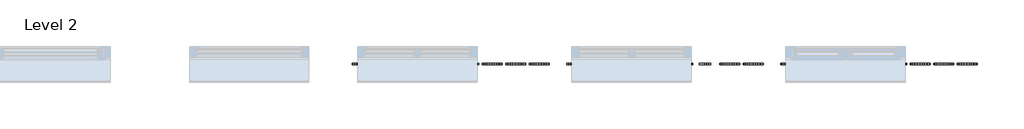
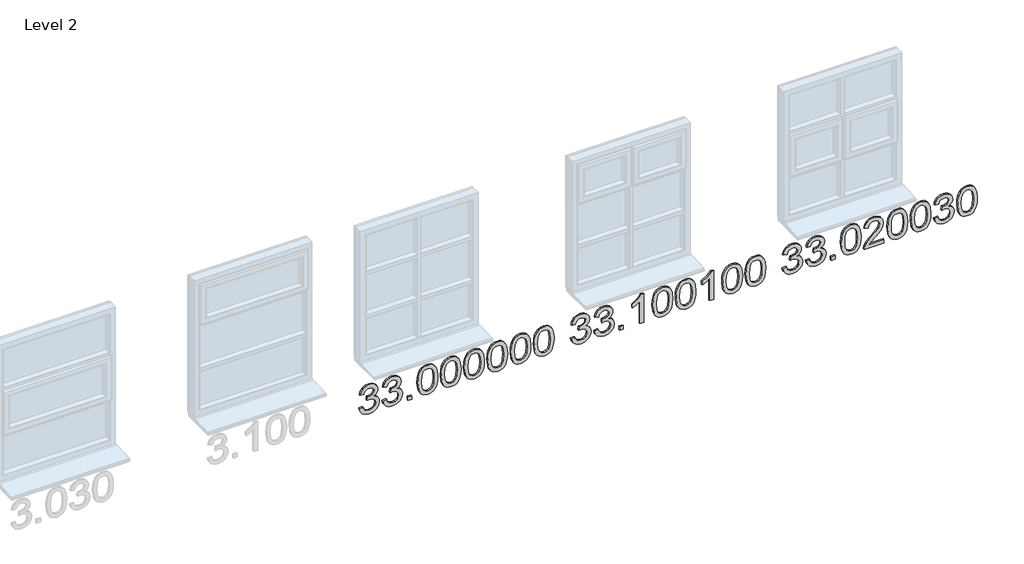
# One storey, part 2 of 2: 3 proxies.
"""IFC4 building model written with IfcOpenShell, lengths in millimetres."""

from ifc_helpers import new_model, si_unit, frame, origin, place, context, project, spatial, polyline, outline, extrude, element, save

model = new_model("IFC4")

# Units and contexts
model_context = context("Model", 3, world=origin())
ifc_project = project(units=[si_unit("LENGTHUNIT", "METRE", prefix="MILLI")], contexts=[model_context])

# Site, building, storey
site = spatial("IfcSite", under=ifc_project)
building = spatial("IfcBuilding", under=site)
storey = spatial("IfcBuildingStorey", under=building, Name="Level 2", Elevation=3000.0)

# Proxies
placement = place(None, origin())
element("IfcBuildingElementProxy", 1, Name="200mm Arial", ObjectType="200mm Arial", at=placement, inside=storey, context=model_context, shape_type="SweptSolid", body=[
    extrude(outline(polyline([(3352.6881933, -156801.9548648), (3329.9898741, -156795.7376591), (3311.9268682, -156781.9911352), (3300.1178561, -156762.2236093), (3296.1815188, -156737.9433976), (3300.7923065, -156711.1002747), (3314.6246695, -156689.3339233), (3335.0789084, -156674.9129491), (3359.5553238, -156670.1059577), (3377.5324907, -156672.5094534), (3392.223245, -156679.7199405), (3403.0389757, -156691.369537), (3409.3910714, -156707.090361), (3416.6383467, -156695.1219334), (3426.0193376, -156686.4889692), (3437.031272, -156681.2650449), (3449.1713779, -156679.5237368), (3462.2005318, -156681.3570154), (3474.5061846, -156686.8568512), (3485.1870252, -156695.8209092), (3493.3417427, -156708.0468542), (3498.5104848, -156722.5475361), (3500.2333988, -156738.3358051), (3496.7385198, -156760.261572), (3486.253883, -156778.2632643), (3469.4171503, -156791.421177), (3446.865984, -156798.8156051), (3443.7267243, -156773.7015276), (3457.4609855, -156769.2501554), (3467.271172, -156761.3897435), (3473.1572839, -156750.6230637), (3475.1193212, -156737.4528883), (3473.175678, -156724.3072383), (3467.3447484, -156713.8103388), (3458.5462374, -156706.9309454), (3447.6998499, -156704.6378143), (3434.6768272, -156707.8015995), (3425.5288283, -156717.292955), (3420.120963, -156730.7451733), (3418.3183412, -156745.7915469), (3418.6126468, -156749.8137233), (3393.4985693, -156752.6096265), (3396.2454215, -156735.0003417), (3393.6763789, -156719.2059413), (3385.9692511, -156706.4526989), (3374.3380487, -156698.0282012), (3359.9967822, -156695.2200353), (3344.889095, -156698.0527266), (3332.4301581, -156706.5508007), (3324.0792368, -156719.8436035), (3321.2955963, -156737.0604808), (3323.3189473, -156751.7328411), (3329.3890002, -156762.9838988), (3340.0453154, -156771.2183241), (3355.8274529, -156776.8407873), (3352.6881933, -156801.9548648)])), frame((0.0, 24202.6264647, 0.0), z_axis=(0.0, 1.0, 0.0), x_axis=(0.0, 0.0, 1.0)), (0.0, 0.0, 1.0), 10.0),
    extrude(outline(polyline([(3352.6881933, -156648.1311399), (3329.9898741, -156641.9139342), (3311.9268682, -156628.1674103), (3300.1178561, -156608.3998844), (3296.1815188, -156584.1196727), (3300.7923065, -156557.2765498), (3314.6246695, -156535.5101984), (3335.0789084, -156521.0892242), (3359.5553238, -156516.2822328), (3377.5324907, -156518.6857285), (3392.223245, -156525.8962156), (3403.0389757, -156537.5458121), (3409.3910714, -156553.2666361), (3416.6383467, -156541.2982085), (3426.0193376, -156532.6652443), (3437.031272, -156527.44132), (3449.1713779, -156525.7000119), (3462.2005318, -156527.5332905), (3474.5061846, -156533.0331263), (3485.1870252, -156541.9971843), (3493.3417427, -156554.2231292), (3498.5104848, -156568.7238112), (3500.2333988, -156584.5120802), (3496.7385198, -156606.4378471), (3486.253883, -156624.4395394), (3469.4171503, -156637.5974521), (3446.865984, -156644.9918802), (3443.7267243, -156619.8778027), (3457.4609855, -156615.4264305), (3467.271172, -156607.5660185), (3473.1572839, -156596.7993388), (3475.1193212, -156583.6291634), (3473.175678, -156570.4835134), (3467.3447484, -156559.9866138), (3458.5462374, -156553.1072205), (3447.6998499, -156550.8140894), (3434.6768272, -156553.9778746), (3425.5288283, -156563.4692301), (3420.120963, -156576.9214483), (3418.3183412, -156591.967822), (3418.6126468, -156595.9899984), (3393.4985693, -156598.7859016), (3396.2454215, -156581.1766168), (3393.6763789, -156565.3822164), (3385.9692511, -156552.6289739), (3374.3380487, -156544.2044762), (3359.9967822, -156541.3963103), (3344.889095, -156544.2290017), (3332.4301581, -156552.7270758), (3324.0792368, -156566.0198786), (3321.2955963, -156583.2367559), (3323.3189473, -156597.9091162), (3329.3890002, -156609.1601739), (3340.0453154, -156617.3945992), (3355.8274529, -156623.0170623), (3352.6881933, -156648.1311399)])), frame((0.0, 24202.6264647, 0.0), z_axis=(0.0, 1.0, 0.0), x_axis=(0.0, 0.0, 1.0)), (0.0, 0.0, 1.0), 10.0),
    extrude(outline(polyline([(-156456.6362987, 24202.6264647), (-156481.7503762, 24202.6264647), (-156481.7503762, 24212.6264647), (-156456.6362987, 24212.6264647), (-156456.6362987, 24202.6264647)])), frame((0.0, 0.0, 3299.3207785), z_axis=(0.0, 0.0, 1.0), x_axis=(1.0, 0.0, 0.0)), (0.0, 0.0, 1.0), 25.1140775),
    extrude(outline(polyline([(3398.1584079, -156415.8259227), (3349.2914162, -156410.8227275), (3330.4405296, -156404.5687336), (3315.3113825, -156395.8131421), (3300.9639847, -156375.9965653), (3296.1815188, -156349.9014691), (3298.9345024, -156329.6005144), (3307.1934532, -156313.1377951), (3321.0503417, -156300.4029467), (3340.5971383, -156291.2856046), (3366.1833311, -156285.8041628), (3398.1584079, -156283.9770156), (3445.3699306, -156288.5387523), (3475.0947958, -156300.3109762), (3485.8553441, -156308.9807285), (3493.7586757, -156320.5690114), (3498.614718, -156334.4258999), (3500.2333988, -156349.9014691), (3497.4988093, -156370.0920593), (3489.2950408, -156386.5179904), (3475.4933346, -156399.2712329), (3455.964932, -156408.4437573), (3430.3174256, -156413.9803813), (3398.1584079, -156415.8259227)]), holes=[polyline([(3398.2074588, -156390.7118451), (3437.2029503, -156387.6706873), (3461.6793657, -156378.5472138), (3471.7593324, -156365.9165986), (3475.1193212, -156350.1957747), (3471.3056112, -156333.592034), (3459.8644812, -156320.4709095), (3436.8228055, -156311.9360472), (3398.2074588, -156309.0910931), (3358.7643775, -156312.0341491), (3335.8882488, -156320.863317), (3324.9437594, -156334.0089669), (3321.2955963, -156349.9014691), (3324.9314967, -156365.7939713), (3335.8391979, -156378.9396213), (3358.7030639, -156387.7687892), (3398.2074588, -156390.7118451)])]), frame((0.0, 24202.6264647, 0.0), z_axis=(0.0, 1.0, 0.0), x_axis=(0.0, 0.0, 1.0)), (0.0, 0.0, 1.0), 10.0),
    extrude(outline(polyline([(3398.1584079, -156262.0021977), (3349.2914162, -156256.9990026), (3330.4405296, -156250.7450087), (3315.3113825, -156241.9894172), (3300.9639847, -156222.1728404), (3296.1815188, -156196.0777442), (3298.9345024, -156175.7767894), (3307.1934532, -156159.3140702), (3321.0503417, -156146.5792218), (3340.5971383, -156137.4618796), (3366.1833311, -156131.9804379), (3398.1584079, -156130.1532907), (3445.3699306, -156134.7150274), (3475.0947958, -156146.4872513), (3485.8553441, -156155.1570036), (3493.7586757, -156166.7452865), (3498.614718, -156180.6021749), (3500.2333988, -156196.0777442), (3497.4988093, -156216.2683344), (3489.2950408, -156232.6942655), (3475.4933346, -156245.447508), (3455.964932, -156254.6200324), (3430.3174256, -156260.1566564), (3398.1584079, -156262.0021977)]), holes=[polyline([(3398.2074588, -156236.8881202), (3437.2029503, -156233.8469624), (3461.6793657, -156224.7234889), (3471.7593324, -156212.0928737), (3475.1193212, -156196.3720498), (3471.3056112, -156179.7683091), (3459.8644812, -156166.6471846), (3436.8228055, -156158.1123223), (3398.2074588, -156155.2673682), (3358.7643775, -156158.2104242), (3335.8882488, -156167.0395921), (3324.9437594, -156180.185242), (3321.2955963, -156196.0777442), (3324.9314967, -156211.9702464), (3335.8391979, -156225.1158964), (3358.7030639, -156233.9450642), (3398.2074588, -156236.8881202)])]), frame((0.0, 24202.6264647, 0.0), z_axis=(0.0, 1.0, 0.0), x_axis=(0.0, 0.0, 1.0)), (0.0, 0.0, 1.0), 10.0),
    extrude(outline(polyline([(3398.1584079, -156108.1784728), (3349.2914162, -156103.1752777), (3330.4405296, -156096.9212838), (3315.3113825, -156088.1656923), (3300.9639847, -156068.3491155), (3296.1815188, -156042.2540193), (3298.9345024, -156021.9530645), (3307.1934532, -156005.4903452), (3321.0503417, -155992.7554968), (3340.5971383, -155983.6381547), (3366.1833311, -155978.156713), (3398.1584079, -155976.3295658), (3445.3699306, -155980.8913025), (3475.0947958, -155992.6635263), (3485.8553441, -156001.3332787), (3493.7586757, -156012.9215615), (3498.614718, -156026.77845), (3500.2333988, -156042.2540193), (3497.4988093, -156062.4446095), (3489.2950408, -156078.8705405), (3475.4933346, -156091.623783), (3455.964932, -156100.7963075), (3430.3174256, -156106.3329315), (3398.1584079, -156108.1784728)]), holes=[polyline([(3398.2074588, -156083.0643953), (3437.2029503, -156080.0232375), (3461.6793657, -156070.899764), (3471.7593324, -156058.2691488), (3475.1193212, -156042.5483249), (3471.3056112, -156025.9445842), (3459.8644812, -156012.8234597), (3436.8228055, -156004.2885974), (3398.2074588, -156001.4436433), (3358.7643775, -156004.3866993), (3335.8882488, -156013.2158671), (3324.9437594, -156026.3615171), (3321.2955963, -156042.2540193), (3324.9314967, -156058.1465215), (3335.8391979, -156071.2921714), (3358.7030639, -156080.1213393), (3398.2074588, -156083.0643953)])]), frame((0.0, 24202.6264647, 0.0), z_axis=(0.0, 1.0, 0.0), x_axis=(0.0, 0.0, 1.0)), (0.0, 0.0, 1.0), 10.0),
    extrude(outline(polyline([(3398.1584079, -155954.3547479), (3349.2914162, -155949.3515528), (3330.4405296, -155943.0975589), (3315.3113825, -155934.3419674), (3300.9639847, -155914.5253906), (3296.1815188, -155888.4302944), (3298.9345024, -155868.1293396), (3307.1934532, -155851.6666203), (3321.0503417, -155838.9317719), (3340.5971383, -155829.8144298), (3366.1833311, -155824.3329881), (3398.1584079, -155822.5058408), (3445.3699306, -155827.0675776), (3475.0947958, -155838.8398014), (3485.8553441, -155847.5095538), (3493.7586757, -155859.0978366), (3498.614718, -155872.9547251), (3500.2333988, -155888.4302944), (3497.4988093, -155908.6208845), (3489.2950408, -155925.0468156), (3475.4933346, -155937.8000581), (3455.964932, -155946.9725825), (3430.3174256, -155952.5092066), (3398.1584079, -155954.3547479)]), holes=[polyline([(3398.2074588, -155929.2406704), (3437.2029503, -155926.1995125), (3461.6793657, -155917.0760391), (3471.7593324, -155904.4454239), (3475.1193212, -155888.7246), (3471.3056112, -155872.1208593), (3459.8644812, -155858.9997348), (3436.8228055, -155850.4648725), (3398.2074588, -155847.6199184), (3358.7643775, -155850.5629743), (3335.8882488, -155859.3921422), (3324.9437594, -155872.5377922), (3321.2955963, -155888.4302944), (3324.9314967, -155904.3227966), (3335.8391979, -155917.4684465), (3358.7030639, -155926.2976144), (3398.2074588, -155929.2406704)])]), frame((0.0, 24202.6264647, 0.0), z_axis=(0.0, 1.0, 0.0), x_axis=(0.0, 0.0, 1.0)), (0.0, 0.0, 1.0), 10.0),
    extrude(outline(polyline([(3398.1584079, -155800.531023), (3349.2914162, -155795.5278279), (3330.4405296, -155789.2738339), (3315.3113825, -155780.5182425), (3300.9639847, -155760.7016656), (3296.1815188, -155734.6065695), (3298.9345024, -155714.3056147), (3307.1934532, -155697.8428954), (3321.0503417, -155685.108047), (3340.5971383, -155675.9907049), (3366.1833311, -155670.5092632), (3398.1584079, -155668.6821159), (3445.3699306, -155673.2438527), (3475.0947958, -155685.0160765), (3485.8553441, -155693.6858289), (3493.7586757, -155705.2741117), (3498.614718, -155719.1310002), (3500.2333988, -155734.6065695), (3497.4988093, -155754.7971596), (3489.2950408, -155771.2230907), (3475.4933346, -155783.9763332), (3455.964932, -155793.1488576), (3430.3174256, -155798.6854817), (3398.1584079, -155800.531023)]), holes=[polyline([(3398.2074588, -155775.4169455), (3437.2029503, -155772.3757876), (3461.6793657, -155763.2523141), (3471.7593324, -155750.621699), (3475.1193212, -155734.9008751), (3471.3056112, -155718.2971343), (3459.8644812, -155705.1760098), (3436.8228055, -155696.6411476), (3398.2074588, -155693.7961935), (3358.7643775, -155696.7392494), (3335.8882488, -155705.5684173), (3324.9437594, -155718.7140673), (3321.2955963, -155734.6065695), (3324.9314967, -155750.4990717), (3335.8391979, -155763.6447216), (3358.7030639, -155772.4738895), (3398.2074588, -155775.4169455)])]), frame((0.0, 24202.6264647, 0.0), z_axis=(0.0, 1.0, 0.0), x_axis=(0.0, 0.0, 1.0)), (0.0, 0.0, 1.0), 10.0),
    extrude(outline(polyline([(3398.1584079, -155646.7072981), (3349.2914162, -155641.7041029), (3330.4405296, -155635.450109), (3315.3113825, -155626.6945175), (3300.9639847, -155606.8779407), (3296.1815188, -155580.7828445), (3298.9345024, -155560.4818898), (3307.1934532, -155544.0191705), (3321.0503417, -155531.2843221), (3340.5971383, -155522.16698), (3366.1833311, -155516.6855382), (3398.1584079, -155514.858391), (3445.3699306, -155519.4201277), (3475.0947958, -155531.1923516), (3485.8553441, -155539.8621039), (3493.7586757, -155551.4503868), (3498.614718, -155565.3072753), (3500.2333988, -155580.7828445), (3497.4988093, -155600.9734347), (3489.2950408, -155617.3993658), (3475.4933346, -155630.1526083), (3455.964932, -155639.3251327), (3430.3174256, -155644.8617567), (3398.1584079, -155646.7072981)]), holes=[polyline([(3398.2074588, -155621.5932205), (3437.2029503, -155618.5520627), (3461.6793657, -155609.4285892), (3471.7593324, -155596.7979741), (3475.1193212, -155581.0771501), (3471.3056112, -155564.4734094), (3459.8644812, -155551.3522849), (3436.8228055, -155542.8174226), (3398.2074588, -155539.9724685), (3358.7643775, -155542.9155245), (3335.8882488, -155551.7446924), (3324.9437594, -155564.8903424), (3321.2955963, -155580.7828445), (3324.9314967, -155596.6753467), (3335.8391979, -155609.8209967), (3358.7030639, -155618.6501646), (3398.2074588, -155621.5932205)])]), frame((0.0, 24202.6264647, 0.0), z_axis=(0.0, 1.0, 0.0), x_axis=(0.0, 0.0, 1.0)), (0.0, 0.0, 1.0), 10.0),
])
element("IfcBuildingElementProxy", 2, Name="200mm Arial", ObjectType="200mm Arial", at=placement, inside=storey, context=model_context, shape_type="SweptSolid", body=[
    extrude(outline(polyline([(3352.6881933, -155401.9548648), (3329.9898741, -155395.7376591), (3311.9268682, -155381.9911352), (3300.1178561, -155362.2236093), (3296.1815188, -155337.9433976), (3300.7923065, -155311.1002747), (3314.6246695, -155289.3339233), (3335.0789084, -155274.9129491), (3359.5553238, -155270.1059577), (3377.5324907, -155272.5094534), (3392.223245, -155279.7199405), (3403.0389757, -155291.369537), (3409.3910714, -155307.090361), (3416.6383467, -155295.1219334), (3426.0193376, -155286.4889692), (3437.031272, -155281.2650449), (3449.1713779, -155279.5237368), (3462.2005318, -155281.3570154), (3474.5061846, -155286.8568512), (3485.1870252, -155295.8209092), (3493.3417427, -155308.0468542), (3498.5104848, -155322.5475361), (3500.2333988, -155338.3358051), (3496.7385198, -155360.261572), (3486.253883, -155378.2632643), (3469.4171503, -155391.421177), (3446.865984, -155398.8156051), (3443.7267243, -155373.7015276), (3457.4609855, -155369.2501554), (3467.271172, -155361.3897435), (3473.1572839, -155350.6230637), (3475.1193212, -155337.4528883), (3473.175678, -155324.3072383), (3467.3447484, -155313.8103388), (3458.5462374, -155306.9309454), (3447.6998499, -155304.6378143), (3434.6768272, -155307.8015995), (3425.5288283, -155317.292955), (3420.120963, -155330.7451733), (3418.3183412, -155345.7915469), (3418.6126468, -155349.8137233), (3393.4985693, -155352.6096265), (3396.2454215, -155335.0003417), (3393.6763789, -155319.2059413), (3385.9692511, -155306.4526989), (3374.3380487, -155298.0282012), (3359.9967822, -155295.2200353), (3344.889095, -155298.0527266), (3332.4301581, -155306.5508007), (3324.0792368, -155319.8436035), (3321.2955963, -155337.0604808), (3323.3189473, -155351.7328411), (3329.3890002, -155362.9838988), (3340.0453154, -155371.2183241), (3355.8274529, -155376.8407873), (3352.6881933, -155401.9548648)])), frame((0.0, 24202.6264647, 0.0), z_axis=(0.0, 1.0, 0.0), x_axis=(0.0, 0.0, 1.0)), (0.0, 0.0, 1.0), 10.0),
    extrude(outline(polyline([(3352.6881933, -155248.1311399), (3329.9898741, -155241.9139342), (3311.9268682, -155228.1674103), (3300.1178561, -155208.3998844), (3296.1815188, -155184.1196727), (3300.7923065, -155157.2765498), (3314.6246695, -155135.5101984), (3335.0789084, -155121.0892242), (3359.5553238, -155116.2822328), (3377.5324907, -155118.6857285), (3392.223245, -155125.8962156), (3403.0389757, -155137.5458121), (3409.3910714, -155153.2666361), (3416.6383467, -155141.2982085), (3426.0193376, -155132.6652443), (3437.031272, -155127.44132), (3449.1713779, -155125.7000119), (3462.2005318, -155127.5332905), (3474.5061846, -155133.0331263), (3485.1870252, -155141.9971843), (3493.3417427, -155154.2231292), (3498.5104848, -155168.7238112), (3500.2333988, -155184.5120802), (3496.7385198, -155206.4378471), (3486.253883, -155224.4395394), (3469.4171503, -155237.5974521), (3446.865984, -155244.9918802), (3443.7267243, -155219.8778027), (3457.4609855, -155215.4264305), (3467.271172, -155207.5660185), (3473.1572839, -155196.7993388), (3475.1193212, -155183.6291634), (3473.175678, -155170.4835134), (3467.3447484, -155159.9866138), (3458.5462374, -155153.1072205), (3447.6998499, -155150.8140894), (3434.6768272, -155153.9778746), (3425.5288283, -155163.4692301), (3420.120963, -155176.9214483), (3418.3183412, -155191.967822), (3418.6126468, -155195.9899984), (3393.4985693, -155198.7859016), (3396.2454215, -155181.1766168), (3393.6763789, -155165.3822164), (3385.9692511, -155152.6289739), (3374.3380487, -155144.2044762), (3359.9967822, -155141.3963103), (3344.889095, -155144.2290017), (3332.4301581, -155152.7270758), (3324.0792368, -155166.0198786), (3321.2955963, -155183.2367559), (3323.3189473, -155197.9091162), (3329.3890002, -155209.1601739), (3340.0453154, -155217.3945992), (3355.8274529, -155223.0170623), (3352.6881933, -155248.1311399)])), frame((0.0, 24202.6264647, 0.0), z_axis=(0.0, 1.0, 0.0), x_axis=(0.0, 0.0, 1.0)), (0.0, 0.0, 1.0), 10.0),
    extrude(outline(polyline([(-155056.6362987, 24202.6264647), (-155081.7503762, 24202.6264647), (-155081.7503762, 24212.6264647), (-155056.6362987, 24212.6264647), (-155056.6362987, 24202.6264647)])), frame((0.0, 0.0, 3299.3207785), z_axis=(0.0, 0.0, 1.0), x_axis=(1.0, 0.0, 0.0)), (0.0, 0.0, 1.0), 25.1140775),
    extrude(outline(polyline([(3299.3207785, -154921.6481319), (3500.2333988, -154921.6481319), (3500.2333988, -154937.8349397), (3487.0754861, -154946.7070271), (3473.5006405, -154960.1776395), (3450.0052437, -154996.9903645), (3426.2645923, -154996.9903645), (3438.9442584, -154970.5519118), (3455.8913556, -154946.7622094), (3299.3207785, -154946.7622094), (3299.3207785, -154921.6481319)])), frame((0.0, 24202.6264647, 0.0), z_axis=(0.0, 1.0, 0.0), x_axis=(0.0, 0.0, 1.0)), (0.0, 0.0, 1.0), 10.0),
    extrude(outline(polyline([(3398.1584079, -154862.0021977), (3349.2914162, -154856.9990026), (3330.4405296, -154850.7450087), (3315.3113825, -154841.9894172), (3300.9639847, -154822.1728404), (3296.1815188, -154796.0777442), (3298.9345024, -154775.7767894), (3307.1934532, -154759.3140702), (3321.0503417, -154746.5792218), (3340.5971383, -154737.4618796), (3366.1833311, -154731.9804379), (3398.1584079, -154730.1532907), (3445.3699306, -154734.7150274), (3475.0947958, -154746.4872513), (3485.8553441, -154755.1570036), (3493.7586757, -154766.7452865), (3498.614718, -154780.6021749), (3500.2333988, -154796.0777442), (3497.4988093, -154816.2683344), (3489.2950408, -154832.6942655), (3475.4933346, -154845.447508), (3455.964932, -154854.6200324), (3430.3174256, -154860.1566564), (3398.1584079, -154862.0021977)]), holes=[polyline([(3398.2074588, -154836.8881202), (3437.2029503, -154833.8469624), (3461.6793657, -154824.7234889), (3471.7593324, -154812.0928737), (3475.1193212, -154796.3720498), (3471.3056112, -154779.7683091), (3459.8644812, -154766.6471846), (3436.8228055, -154758.1123223), (3398.2074588, -154755.2673682), (3358.7643775, -154758.2104242), (3335.8882488, -154767.0395921), (3324.9437594, -154780.185242), (3321.2955963, -154796.0777442), (3324.9314967, -154811.9702464), (3335.8391979, -154825.1158964), (3358.7030639, -154833.9450642), (3398.2074588, -154836.8881202)])]), frame((0.0, 24202.6264647, 0.0), z_axis=(0.0, 1.0, 0.0), x_axis=(0.0, 0.0, 1.0)), (0.0, 0.0, 1.0), 10.0),
    extrude(outline(polyline([(3398.1584079, -154708.1784728), (3349.2914162, -154703.1752777), (3330.4405296, -154696.9212838), (3315.3113825, -154688.1656923), (3300.9639847, -154668.3491155), (3296.1815188, -154642.2540193), (3298.9345024, -154621.9530645), (3307.1934532, -154605.4903452), (3321.0503417, -154592.7554968), (3340.5971383, -154583.6381547), (3366.1833311, -154578.156713), (3398.1584079, -154576.3295658), (3445.3699306, -154580.8913025), (3475.0947958, -154592.6635263), (3485.8553441, -154601.3332787), (3493.7586757, -154612.9215615), (3498.614718, -154626.77845), (3500.2333988, -154642.2540193), (3497.4988093, -154662.4446095), (3489.2950408, -154678.8705405), (3475.4933346, -154691.623783), (3455.964932, -154700.7963075), (3430.3174256, -154706.3329315), (3398.1584079, -154708.1784728)]), holes=[polyline([(3398.2074588, -154683.0643953), (3437.2029503, -154680.0232375), (3461.6793657, -154670.899764), (3471.7593324, -154658.2691488), (3475.1193212, -154642.5483249), (3471.3056112, -154625.9445842), (3459.8644812, -154612.8234597), (3436.8228055, -154604.2885974), (3398.2074588, -154601.4436433), (3358.7643775, -154604.3866993), (3335.8882488, -154613.2158671), (3324.9437594, -154626.3615171), (3321.2955963, -154642.2540193), (3324.9314967, -154658.1465215), (3335.8391979, -154671.2921714), (3358.7030639, -154680.1213393), (3398.2074588, -154683.0643953)])]), frame((0.0, 24202.6264647, 0.0), z_axis=(0.0, 1.0, 0.0), x_axis=(0.0, 0.0, 1.0)), (0.0, 0.0, 1.0), 10.0),
    extrude(outline(polyline([(3299.3207785, -154460.1769571), (3500.2333988, -154460.1769571), (3500.2333988, -154476.3637649), (3487.0754861, -154485.2358524), (3473.5006405, -154498.7064648), (3450.0052437, -154535.5191898), (3426.2645923, -154535.5191898), (3438.9442584, -154509.080737), (3455.8913556, -154485.2910347), (3299.3207785, -154485.2910347), (3299.3207785, -154460.1769571)])), frame((0.0, 24202.6264647, 0.0), z_axis=(0.0, 1.0, 0.0), x_axis=(0.0, 0.0, 1.0)), (0.0, 0.0, 1.0), 10.0),
    extrude(outline(polyline([(3398.1584079, -154400.531023), (3349.2914162, -154395.5278279), (3330.4405296, -154389.2738339), (3315.3113825, -154380.5182425), (3300.9639847, -154360.7016656), (3296.1815188, -154334.6065695), (3298.9345024, -154314.3056147), (3307.1934532, -154297.8428954), (3321.0503417, -154285.108047), (3340.5971383, -154275.9907049), (3366.1833311, -154270.5092632), (3398.1584079, -154268.6821159), (3445.3699306, -154273.2438527), (3475.0947958, -154285.0160765), (3485.8553441, -154293.6858289), (3493.7586757, -154305.2741117), (3498.614718, -154319.1310002), (3500.2333988, -154334.6065695), (3497.4988093, -154354.7971596), (3489.2950408, -154371.2230907), (3475.4933346, -154383.9763332), (3455.964932, -154393.1488576), (3430.3174256, -154398.6854817), (3398.1584079, -154400.531023)]), holes=[polyline([(3398.2074588, -154375.4169455), (3437.2029503, -154372.3757876), (3461.6793657, -154363.2523141), (3471.7593324, -154350.621699), (3475.1193212, -154334.9008751), (3471.3056112, -154318.2971343), (3459.8644812, -154305.1760098), (3436.8228055, -154296.6411476), (3398.2074588, -154293.7961935), (3358.7643775, -154296.7392494), (3335.8882488, -154305.5684173), (3324.9437594, -154318.7140673), (3321.2955963, -154334.6065695), (3324.9314967, -154350.4990717), (3335.8391979, -154363.6447216), (3358.7030639, -154372.4738895), (3398.2074588, -154375.4169455)])]), frame((0.0, 24202.6264647, 0.0), z_axis=(0.0, 1.0, 0.0), x_axis=(0.0, 0.0, 1.0)), (0.0, 0.0, 1.0), 10.0),
    extrude(outline(polyline([(3398.1584079, -154246.7072981), (3349.2914162, -154241.7041029), (3330.4405296, -154235.450109), (3315.3113825, -154226.6945175), (3300.9639847, -154206.8779407), (3296.1815188, -154180.7828445), (3298.9345024, -154160.4818898), (3307.1934532, -154144.0191705), (3321.0503417, -154131.2843221), (3340.5971383, -154122.16698), (3366.1833311, -154116.6855382), (3398.1584079, -154114.858391), (3445.3699306, -154119.4201277), (3475.0947958, -154131.1923516), (3485.8553441, -154139.8621039), (3493.7586757, -154151.4503868), (3498.614718, -154165.3072753), (3500.2333988, -154180.7828445), (3497.4988093, -154200.9734347), (3489.2950408, -154217.3993658), (3475.4933346, -154230.1526083), (3455.964932, -154239.3251327), (3430.3174256, -154244.8617567), (3398.1584079, -154246.7072981)]), holes=[polyline([(3398.2074588, -154221.5932205), (3437.2029503, -154218.5520627), (3461.6793657, -154209.4285892), (3471.7593324, -154196.7979741), (3475.1193212, -154181.0771501), (3471.3056112, -154164.4734094), (3459.8644812, -154151.3522849), (3436.8228055, -154142.8174226), (3398.2074588, -154139.9724685), (3358.7643775, -154142.9155245), (3335.8882488, -154151.7446924), (3324.9437594, -154164.8903424), (3321.2955963, -154180.7828445), (3324.9314967, -154196.6753467), (3335.8391979, -154209.8209967), (3358.7030639, -154218.6501646), (3398.2074588, -154221.5932205)])]), frame((0.0, 24202.6264647, 0.0), z_axis=(0.0, 1.0, 0.0), x_axis=(0.0, 0.0, 1.0)), (0.0, 0.0, 1.0), 10.0),
])
element("IfcBuildingElementProxy", 3, Name="200mm Arial", ObjectType="200mm Arial", at=placement, inside=storey, context=model_context, shape_type="SweptSolid", body=[
    extrude(outline(polyline([(3352.6881933, -154001.9548648), (3329.9898741, -153995.7376591), (3311.9268682, -153981.9911352), (3300.1178561, -153962.2236093), (3296.1815188, -153937.9433976), (3300.7923065, -153911.1002747), (3314.6246695, -153889.3339233), (3335.0789084, -153874.9129491), (3359.5553238, -153870.1059577), (3377.5324907, -153872.5094534), (3392.223245, -153879.7199405), (3403.0389757, -153891.369537), (3409.3910714, -153907.090361), (3416.6383467, -153895.1219334), (3426.0193376, -153886.4889692), (3437.031272, -153881.2650449), (3449.1713779, -153879.5237368), (3462.2005318, -153881.3570154), (3474.5061846, -153886.8568512), (3485.1870252, -153895.8209092), (3493.3417427, -153908.0468542), (3498.5104848, -153922.5475361), (3500.2333988, -153938.3358051), (3496.7385198, -153960.261572), (3486.253883, -153978.2632643), (3469.4171503, -153991.421177), (3446.865984, -153998.8156051), (3443.7267243, -153973.7015276), (3457.4609855, -153969.2501554), (3467.271172, -153961.3897435), (3473.1572839, -153950.6230637), (3475.1193212, -153937.4528883), (3473.175678, -153924.3072383), (3467.3447484, -153913.8103388), (3458.5462374, -153906.9309454), (3447.6998499, -153904.6378143), (3434.6768272, -153907.8015995), (3425.5288283, -153917.292955), (3420.120963, -153930.7451733), (3418.3183412, -153945.7915469), (3418.6126468, -153949.8137233), (3393.4985693, -153952.6096265), (3396.2454215, -153935.0003417), (3393.6763789, -153919.2059413), (3385.9692511, -153906.4526989), (3374.3380487, -153898.0282012), (3359.9967822, -153895.2200353), (3344.889095, -153898.0527266), (3332.4301581, -153906.5508007), (3324.0792368, -153919.8436035), (3321.2955963, -153937.0604808), (3323.3189473, -153951.7328411), (3329.3890002, -153962.9838988), (3340.0453154, -153971.2183241), (3355.8274529, -153976.8407873), (3352.6881933, -154001.9548648)])), frame((0.0, 24202.6264647, 0.0), z_axis=(0.0, 1.0, 0.0), x_axis=(0.0, 0.0, 1.0)), (0.0, 0.0, 1.0), 10.0),
    extrude(outline(polyline([(3352.6881933, -153848.1311399), (3329.9898741, -153841.9139342), (3311.9268682, -153828.1674103), (3300.1178561, -153808.3998844), (3296.1815188, -153784.1196727), (3300.7923065, -153757.2765498), (3314.6246695, -153735.5101984), (3335.0789084, -153721.0892242), (3359.5553238, -153716.2822328), (3377.5324907, -153718.6857285), (3392.223245, -153725.8962156), (3403.0389757, -153737.5458121), (3409.3910714, -153753.2666361), (3416.6383467, -153741.2982085), (3426.0193376, -153732.6652443), (3437.031272, -153727.44132), (3449.1713779, -153725.7000119), (3462.2005318, -153727.5332905), (3474.5061846, -153733.0331263), (3485.1870252, -153741.9971843), (3493.3417427, -153754.2231292), (3498.5104848, -153768.7238112), (3500.2333988, -153784.5120802), (3496.7385198, -153806.4378471), (3486.253883, -153824.4395394), (3469.4171503, -153837.5974521), (3446.865984, -153844.9918802), (3443.7267243, -153819.8778027), (3457.4609855, -153815.4264305), (3467.271172, -153807.5660185), (3473.1572839, -153796.7993388), (3475.1193212, -153783.6291634), (3473.175678, -153770.4835134), (3467.3447484, -153759.9866138), (3458.5462374, -153753.1072205), (3447.6998499, -153750.8140894), (3434.6768272, -153753.9778746), (3425.5288283, -153763.4692301), (3420.120963, -153776.9214483), (3418.3183412, -153791.967822), (3418.6126468, -153795.9899984), (3393.4985693, -153798.7859016), (3396.2454215, -153781.1766168), (3393.6763789, -153765.3822164), (3385.9692511, -153752.6289739), (3374.3380487, -153744.2044762), (3359.9967822, -153741.3963103), (3344.889095, -153744.2290017), (3332.4301581, -153752.7270758), (3324.0792368, -153766.0198786), (3321.2955963, -153783.2367559), (3323.3189473, -153797.9091162), (3329.3890002, -153809.1601739), (3340.0453154, -153817.3945992), (3355.8274529, -153823.0170623), (3352.6881933, -153848.1311399)])), frame((0.0, 24202.6264647, 0.0), z_axis=(0.0, 1.0, 0.0), x_axis=(0.0, 0.0, 1.0)), (0.0, 0.0, 1.0), 10.0),
    extrude(outline(polyline([(-153656.6362987, 24202.6264647), (-153681.7503762, 24202.6264647), (-153681.7503762, 24212.6264647), (-153656.6362987, 24212.6264647), (-153656.6362987, 24202.6264647)])), frame((0.0, 0.0, 3299.3207785), z_axis=(0.0, 0.0, 1.0), x_axis=(1.0, 0.0, 0.0)), (0.0, 0.0, 1.0), 25.1140775),
    extrude(outline(polyline([(3398.1584079, -153615.8259227), (3349.2914162, -153610.8227275), (3330.4405296, -153604.5687336), (3315.3113825, -153595.8131421), (3300.9639847, -153575.9965653), (3296.1815188, -153549.9014691), (3298.9345024, -153529.6005144), (3307.1934532, -153513.1377951), (3321.0503417, -153500.4029467), (3340.5971383, -153491.2856046), (3366.1833311, -153485.8041628), (3398.1584079, -153483.9770156), (3445.3699306, -153488.5387523), (3475.0947958, -153500.3109762), (3485.8553441, -153508.9807285), (3493.7586757, -153520.5690114), (3498.614718, -153534.4258999), (3500.2333988, -153549.9014691), (3497.4988093, -153570.0920593), (3489.2950408, -153586.5179904), (3475.4933346, -153599.2712329), (3455.964932, -153608.4437573), (3430.3174256, -153613.9803813), (3398.1584079, -153615.8259227)]), holes=[polyline([(3398.2074588, -153590.7118451), (3437.2029503, -153587.6706873), (3461.6793657, -153578.5472138), (3471.7593324, -153565.9165986), (3475.1193212, -153550.1957747), (3471.3056112, -153533.592034), (3459.8644812, -153520.4709095), (3436.8228055, -153511.9360472), (3398.2074588, -153509.0910931), (3358.7643775, -153512.0341491), (3335.8882488, -153520.863317), (3324.9437594, -153534.0089669), (3321.2955963, -153549.9014691), (3324.9314967, -153565.7939713), (3335.8391979, -153578.9396213), (3358.7030639, -153587.7687892), (3398.2074588, -153590.7118451)])]), frame((0.0, 24202.6264647, 0.0), z_axis=(0.0, 1.0, 0.0), x_axis=(0.0, 0.0, 1.0)), (0.0, 0.0, 1.0), 10.0),
    extrude(outline(polyline([(3324.434856, -153333.2925504), (3324.434856, -153431.933976), (3337.212624, -153420.6032106), (3361.3702083, -153391.7122112), (3395.7794376, -153355.7333521), (3420.4030058, -153340.8954449), (3444.2172337, -153336.4318101), (3466.1184751, -153340.5704825), (3484.1446929, -153352.9864998), (3496.2112223, -153372.5026397), (3500.2333988, -153397.9416797), (3496.6158925, -153423.1967786), (3485.7633736, -153442.7497067), (3468.0191987, -153455.9137507), (3443.7267243, -153462.0021977), (3440.5874646, -153436.8881202), (3455.0207016, -153434.1719248), (3465.9467968, -153426.3176442), (3472.8261901, -153414.1468815), (3475.1193212, -153398.4812399), (3472.7710078, -153383.563625), (3465.7260676, -153371.7730071), (3455.2720876, -153364.1026675), (3442.6966547, -153361.5458876), (3428.668088, -153364.2559516), (3414.2471138, -153372.3861437), (3372.4066682, -153415.7471682), (3343.2949396, -153447.1888161), (3316.6357577, -153462.4436561), (3299.3207785, -153465.1414574), (3299.3207785, -153333.2925504), (3324.434856, -153333.2925504)])), frame((0.0, 24202.6264647, 0.0), z_axis=(0.0, 1.0, 0.0), x_axis=(0.0, 0.0, 1.0)), (0.0, 0.0, 1.0), 10.0),
    extrude(outline(polyline([(3398.1584079, -153308.1784728), (3349.2914162, -153303.1752777), (3330.4405296, -153296.9212838), (3315.3113825, -153288.1656923), (3300.9639847, -153268.3491155), (3296.1815188, -153242.2540193), (3298.9345024, -153221.9530645), (3307.1934532, -153205.4903452), (3321.0503417, -153192.7554968), (3340.5971383, -153183.6381547), (3366.1833311, -153178.156713), (3398.1584079, -153176.3295658), (3445.3699306, -153180.8913025), (3475.0947958, -153192.6635263), (3485.8553441, -153201.3332787), (3493.7586757, -153212.9215615), (3498.614718, -153226.77845), (3500.2333988, -153242.2540193), (3497.4988093, -153262.4446095), (3489.2950408, -153278.8705405), (3475.4933346, -153291.623783), (3455.964932, -153300.7963075), (3430.3174256, -153306.3329315), (3398.1584079, -153308.1784728)]), holes=[polyline([(3398.2074588, -153283.0643953), (3437.2029503, -153280.0232375), (3461.6793657, -153270.899764), (3471.7593324, -153258.2691488), (3475.1193212, -153242.5483249), (3471.3056112, -153225.9445842), (3459.8644812, -153212.8234597), (3436.8228055, -153204.2885974), (3398.2074588, -153201.4436433), (3358.7643775, -153204.3866993), (3335.8882488, -153213.2158671), (3324.9437594, -153226.3615171), (3321.2955963, -153242.2540193), (3324.9314967, -153258.1465215), (3335.8391979, -153271.2921714), (3358.7030639, -153280.1213393), (3398.2074588, -153283.0643953)])]), frame((0.0, 24202.6264647, 0.0), z_axis=(0.0, 1.0, 0.0), x_axis=(0.0, 0.0, 1.0)), (0.0, 0.0, 1.0), 10.0),
    extrude(outline(polyline([(3398.1584079, -153154.3547479), (3349.2914162, -153149.3515528), (3330.4405296, -153143.0975589), (3315.3113825, -153134.3419674), (3300.9639847, -153114.5253906), (3296.1815188, -153088.4302944), (3298.9345024, -153068.1293396), (3307.1934532, -153051.6666203), (3321.0503417, -153038.9317719), (3340.5971383, -153029.8144298), (3366.1833311, -153024.3329881), (3398.1584079, -153022.5058408), (3445.3699306, -153027.0675776), (3475.0947958, -153038.8398014), (3485.8553441, -153047.5095538), (3493.7586757, -153059.0978366), (3498.614718, -153072.9547251), (3500.2333988, -153088.4302944), (3497.4988093, -153108.6208845), (3489.2950408, -153125.0468156), (3475.4933346, -153137.8000581), (3455.964932, -153146.9725825), (3430.3174256, -153152.5092066), (3398.1584079, -153154.3547479)]), holes=[polyline([(3398.2074588, -153129.2406704), (3437.2029503, -153126.1995125), (3461.6793657, -153117.0760391), (3471.7593324, -153104.4454239), (3475.1193212, -153088.7246), (3471.3056112, -153072.1208593), (3459.8644812, -153058.9997348), (3436.8228055, -153050.4648725), (3398.2074588, -153047.6199184), (3358.7643775, -153050.5629743), (3335.8882488, -153059.3921422), (3324.9437594, -153072.5377922), (3321.2955963, -153088.4302944), (3324.9314967, -153104.3227966), (3335.8391979, -153117.4684465), (3358.7030639, -153126.2976144), (3398.2074588, -153129.2406704)])]), frame((0.0, 24202.6264647, 0.0), z_axis=(0.0, 1.0, 0.0), x_axis=(0.0, 0.0, 1.0)), (0.0, 0.0, 1.0), 10.0),
    extrude(outline(polyline([(3352.6881933, -153000.531023), (3329.9898741, -152994.3138173), (3311.9268682, -152980.5672934), (3300.1178561, -152960.7997675), (3296.1815188, -152936.5195558), (3300.7923065, -152909.6764329), (3314.6246695, -152887.9100815), (3335.0789084, -152873.4891073), (3359.5553238, -152868.6821159), (3377.5324907, -152871.0856116), (3392.223245, -152878.2960987), (3403.0389757, -152889.9456952), (3409.3910714, -152905.6665192), (3416.6383467, -152893.6980916), (3426.0193376, -152885.0651274), (3437.031272, -152879.8412031), (3449.1713779, -152878.099895), (3462.2005318, -152879.9331736), (3474.5061846, -152885.4330094), (3485.1870252, -152894.3970674), (3493.3417427, -152906.6230124), (3498.5104848, -152921.1236943), (3500.2333988, -152936.9119633), (3496.7385198, -152958.8377302), (3486.253883, -152976.8394225), (3469.4171503, -152989.9973352), (3446.865984, -152997.3917633), (3443.7267243, -152972.2776858), (3457.4609855, -152967.8263136), (3467.271172, -152959.9659017), (3473.1572839, -152949.1992219), (3475.1193212, -152936.0290465), (3473.175678, -152922.8833965), (3467.3447484, -152912.3864969), (3458.5462374, -152905.5071036), (3447.6998499, -152903.2139725), (3434.6768272, -152906.3777577), (3425.5288283, -152915.8691132), (3420.120963, -152929.3213315), (3418.3183412, -152944.3677051), (3418.6126468, -152948.3898815), (3393.4985693, -152951.1857847), (3396.2454215, -152933.5764999), (3393.6763789, -152917.7820995), (3385.9692511, -152905.028857), (3374.3380487, -152896.6043594), (3359.9967822, -152893.7961935), (3344.889095, -152896.6288848), (3332.4301581, -152905.1269589), (3324.0792368, -152918.4197617), (3321.2955963, -152935.636639), (3323.3189473, -152950.3089993), (3329.3890002, -152961.560057), (3340.0453154, -152969.7944823), (3355.8274529, -152975.4169455), (3352.6881933, -153000.531023)])), frame((0.0, 24202.6264647, 0.0), z_axis=(0.0, 1.0, 0.0), x_axis=(0.0, 0.0, 1.0)), (0.0, 0.0, 1.0), 10.0),
    extrude(outline(polyline([(3398.1584079, -152846.7072981), (3349.2914162, -152841.7041029), (3330.4405296, -152835.450109), (3315.3113825, -152826.6945175), (3300.9639847, -152806.8779407), (3296.1815188, -152780.7828445), (3298.9345024, -152760.4818898), (3307.1934532, -152744.0191705), (3321.0503417, -152731.2843221), (3340.5971383, -152722.16698), (3366.1833311, -152716.6855382), (3398.1584079, -152714.858391), (3445.3699306, -152719.4201277), (3475.0947958, -152731.1923516), (3485.8553441, -152739.8621039), (3493.7586757, -152751.4503868), (3498.614718, -152765.3072753), (3500.2333988, -152780.7828445), (3497.4988093, -152800.9734347), (3489.2950408, -152817.3993658), (3475.4933346, -152830.1526083), (3455.964932, -152839.3251327), (3430.3174256, -152844.8617567), (3398.1584079, -152846.7072981)]), holes=[polyline([(3398.2074588, -152821.5932205), (3437.2029503, -152818.5520627), (3461.6793657, -152809.4285892), (3471.7593324, -152796.7979741), (3475.1193212, -152781.0771501), (3471.3056112, -152764.4734094), (3459.8644812, -152751.3522849), (3436.8228055, -152742.8174226), (3398.2074588, -152739.9724685), (3358.7643775, -152742.9155245), (3335.8882488, -152751.7446924), (3324.9437594, -152764.8903424), (3321.2955963, -152780.7828445), (3324.9314967, -152796.6753467), (3335.8391979, -152809.8209967), (3358.7030639, -152818.6501646), (3398.2074588, -152821.5932205)])]), frame((0.0, 24202.6264647, 0.0), z_axis=(0.0, 1.0, 0.0), x_axis=(0.0, 0.0, 1.0)), (0.0, 0.0, 1.0), 10.0),
])

save(model, "model.ifc")
